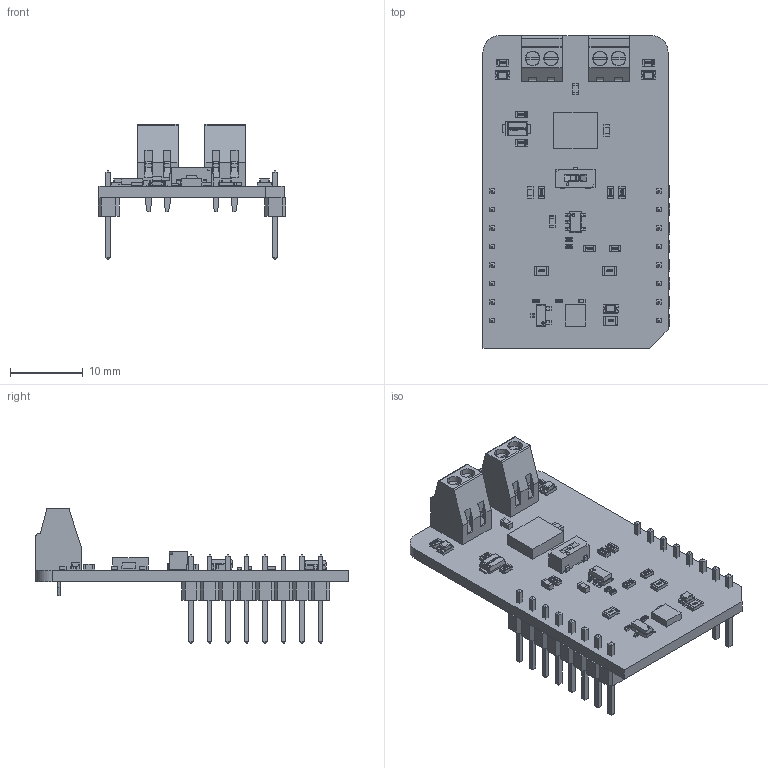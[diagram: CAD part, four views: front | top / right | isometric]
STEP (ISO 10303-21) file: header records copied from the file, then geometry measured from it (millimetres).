
FILE_DESCRIPTION(('Open CASCADE Model'),'2;1');
FILE_NAME('Open CASCADE Shape Model','2025-12-25T10:45:59',('Author'),( 'Open CASCADE'),'Open CASCADE STEP processor 6.8','Open CASCADE 6.8' ,'Unknown');
FILE_SCHEMA(('AUTOMOTIVE_DESIGN { 1 0 10303 214 1 1 1 1 }'));
Length unit declared in the file: millimetre
Products named in the file (59): PCB; Board; TB2; ScrewTerminal_2.54; TB1; Rs2; User_Library-R_0603; Rs1; R12; R11; R10; R9; R8; R7; R4; LD3; led_0805_green; LD2; JP2; User_Library-R_0805; D2; User_Library-powerdi123; C4; User_Library-SMD_CAPACITOR0603; C3; C2; U1; 1056078048; Extruded; Q1; SOT23-3; R3; User_Library-R_0402; C1; User_Library-SMD_CAPACITOR0402; R2; JP1; LD1; R1; MBD1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
Assembly tree (81 placements, depth 7):
  PCB
    Board
    TB2
      ScrewTerminal_2.54
    TB1
      ScrewTerminal_2.54
    Rs2
      User_Library-R_0603
    Rs1
      User_Library-R_0603
    R12
      User_Library-R_0603
    R11
      User_Library-R_0603
    R10
      User_Library-R_0603
    R9
      User_Library-R_0603
    R8
      User_Library-R_0603
    R7
      User_Library-R_0603
    R4
      User_Library-R_0603
    LD3
      led_0805_green
    LD2
      led_0805_green
    JP2
      User_Library-R_0805
    D2
      User_Library-powerdi123
    C4
      User_Library-SMD_CAPACITOR0603
    C3
      User_Library-SMD_CAPACITOR0603
    C2
      User_Library-SMD_CAPACITOR0603
    U1
      1056078048
        Extruded
    Q1
      SOT23-3
    R3
      User_Library-R_0402
    C1
      User_Library-SMD_CAPACITOR0402
    R2
      User_Library-R_0402
    JP1
      User_Library-R_0805
    LD1
      led_0805_green
    R1
      User_Library-R_0805
    MBD1
      Header_1x8  x2
        PCB
          Free-Models
            1240637040  x2
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Bounding box: 25.78 x 42.93 x 18.61 mm (x, y, z)
Volume: 2669.9 mm3; surface area: 5543.6 mm2
Topology: 105 solids, 105 shells, 3096 faces, 7849 edges, 5064 vertices
Faces by surface type: plane 2094, bspline 699, cylinder 247, sphere 56
Entity records: 47666 total; most frequent: CARTESIAN_POINT 16599, ORIENTED_EDGE 5550, DIRECTION 4693, EDGE_CURVE 2775, LINE 2145, VECTOR 2145, VERTEX_POINT 1792, AXIS2_PLACEMENT_3D 1274
